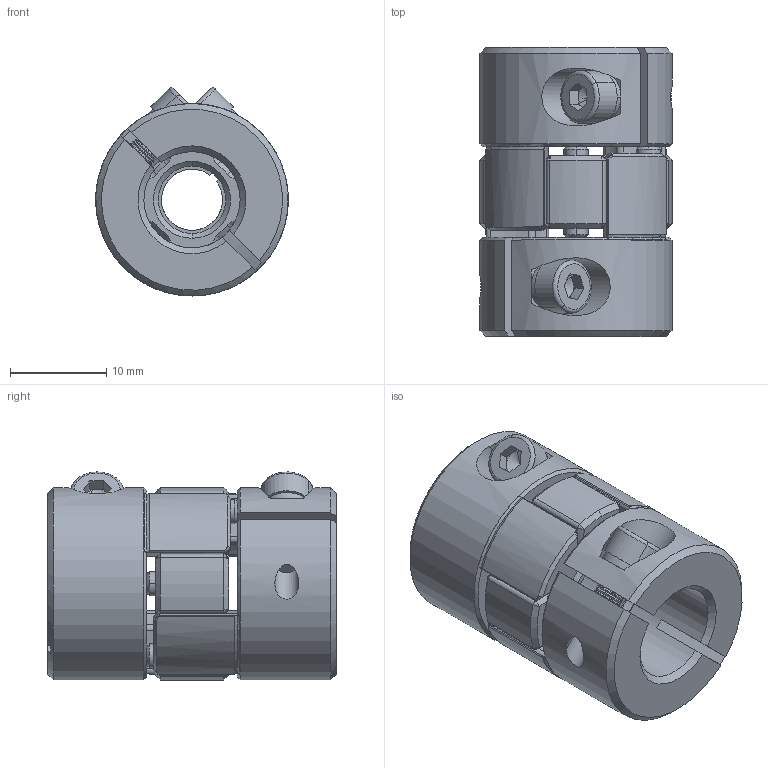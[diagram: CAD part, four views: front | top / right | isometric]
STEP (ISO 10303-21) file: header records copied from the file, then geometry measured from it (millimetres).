
FILE_DESCRIPTION (( 'STEP AP203' ), '1' );
FILE_NAME ('LF-B-D20L30-6.35-10.STEP', '2021-10-27T02:52:25', ( '' ), ( '' ), 'SwSTEP 2.0', 'SolidWorks 2018', '' );
FILE_SCHEMA (( 'CONFIG_CONTROL_DESIGN' ));
Length unit declared in the file: millimetre
Products named in the file (1): LF-B-D20L30-6.35-10
Bounding box: 20 x 30 x 21.62 mm (x, y, z)
Volume: 7220.9 mm3; surface area: 4846.6 mm2
Topology: 1 solids, 1 shells, 518 faces, 1253 edges, 691 vertices
Faces by surface type: cone 252, cylinder 192, plane 62, torus 12
Entity records: 15022 total; most frequent: CARTESIAN_POINT 2902, DIRECTION 2742, ORIENTED_EDGE 2426, EDGE_CURVE 1213, AXIS2_PLACEMENT_3D 1107, VERTEX_POINT 691, CIRCLE 588, EDGE_LOOP 546
